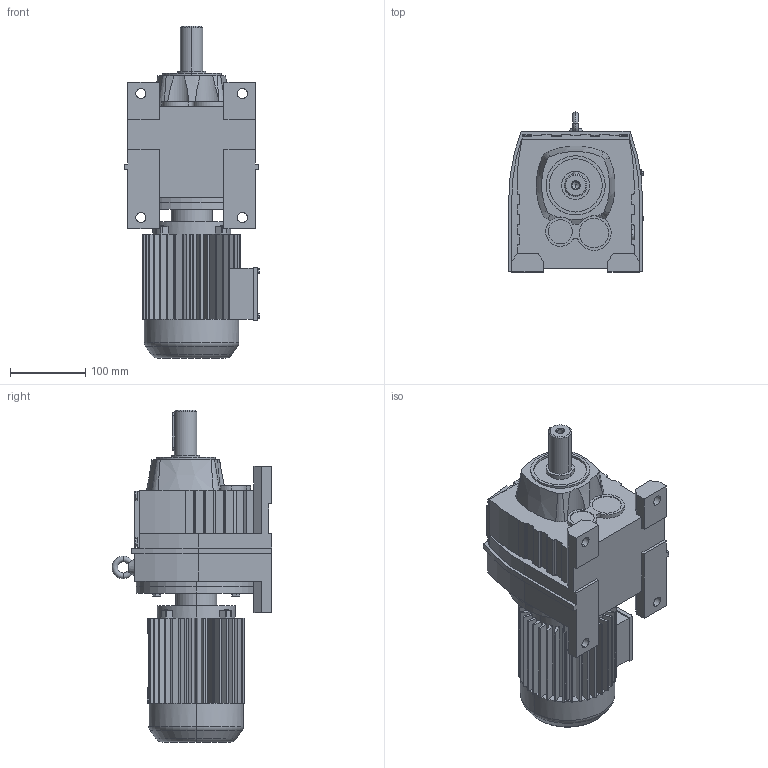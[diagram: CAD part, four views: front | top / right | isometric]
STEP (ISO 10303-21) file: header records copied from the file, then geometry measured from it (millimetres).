
FILE_DESCRIPTION(('Open CASCADE Model'),'2;1');
FILE_NAME('Open CASCADE Shape Model','2021-07-13T15:14:52',('Author'),( 'Open CASCADE'),'Open CASCADE STEP processor 6.3','Open CASCADE 6.3' ,'Unknown');
FILE_SCHEMA(('AUTOMOTIVE_DESIGN_CC2 { 1 2 10303 214 -1 1 5 4 }'));
Length unit declared in the file: millimetre
Products named in the file (3): 1_R47-Y63S; R37‵167_47.step; 萇儂_160_Y63S.step
Assembly tree (2 placements, depth 2):
  1_R47-Y63S
    R37‵167_47.step
    萇儂_160_Y63S.step
Bounding box: 179 x 213 x 442 mm (x, y, z)
Volume: 6444460 mm3; surface area: 435709.2 mm2
Topology: 2 solids, 2 shells, 746 faces, 1989 edges, 1286 vertices
Faces by surface type: plane 529, cylinder 187, cone 20, torus 10
Entity records: 51682 total; most frequent: CARTESIAN_POINT 13706, DIRECTION 6626, ORIENTED_EDGE 3974, PCURVE 3974, DEFINITIONAL_REPRESENTATION 3974, LINE 3722, VECTOR 3722, EDGE_CURVE 1987
